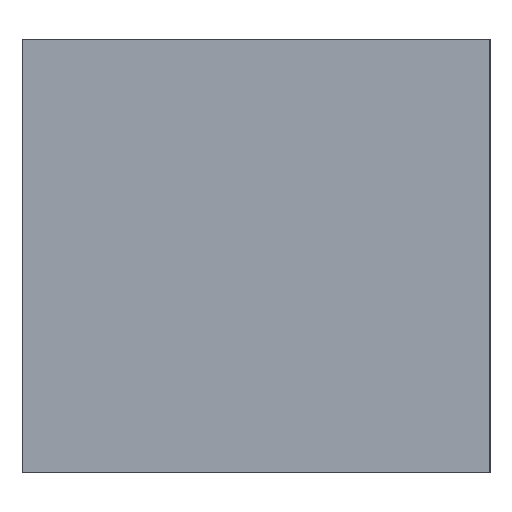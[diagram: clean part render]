
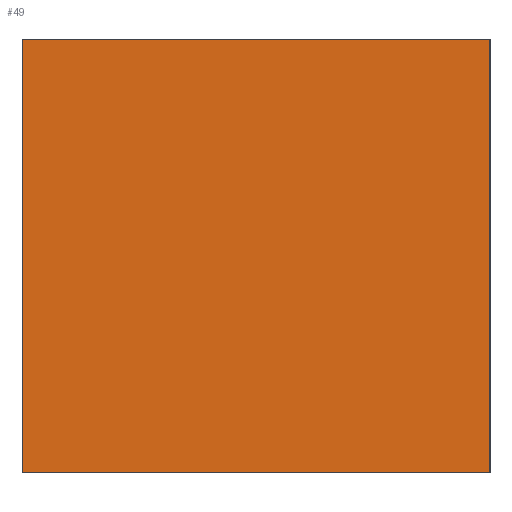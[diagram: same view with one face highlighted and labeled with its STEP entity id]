
A CAD part, left-side view. The second image highlights one B-rep face of the part: STEP entity #49.
In plain terms, the highlighted planar face has unit normal (-1, 0, 0).
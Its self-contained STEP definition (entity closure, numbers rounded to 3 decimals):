
#49 = ADVANCED_FACE( '', ( #108 ), #109, .F. );
#108 = FACE_OUTER_BOUND( '', #176, .T. );
#109 = PLANE( '', #177 );
#176 = EDGE_LOOP( '', ( #250, #251, #252, #253 ) );
#177 = AXIS2_PLACEMENT_3D( '', #254, #255, #256 );
#250 = ORIENTED_EDGE( '', *, *, #403, .F. );
#251 = ORIENTED_EDGE( '', *, *, #396, .F. );
#252 = ORIENTED_EDGE( '', *, *, #404, .F. );
#253 = ORIENTED_EDGE( '', *, *, #390, .F. );
#254 = CARTESIAN_POINT( '', ( -17.5, -26., -10.093 ) );
#255 = DIRECTION( '', ( 1., 0., 0. ) );
#256 = DIRECTION( '', ( 0., 0., -1. ) );
#390 = EDGE_CURVE( '', #452, #453, #454, .T. );
#396 = EDGE_CURVE( '', #463, #464, #465, .T. );
#403 = EDGE_CURVE( '', #464, #452, #475, .T. );
#404 = EDGE_CURVE( '', #453, #463, #476, .T. );
#452 = VERTEX_POINT( '', #544 );
#453 = VERTEX_POINT( '', #545 );
#454 = LINE( '', #546, #547 );
#463 = VERTEX_POINT( '', #559 );
#464 = VERTEX_POINT( '', #560 );
#465 = LINE( '', #561, #562 );
#475 = LINE( '', #575, #576 );
#476 = LINE( '', #577, #578 );
#544 = CARTESIAN_POINT( '', ( -17.5, -27., 12.5 ) );
#545 = CARTESIAN_POINT( '', ( -17.5, -27., -12.5 ) );
#546 = CARTESIAN_POINT( '', ( -17.5, -27., 12.5 ) );
#547 = VECTOR( '', #666, 1000. );
#559 = CARTESIAN_POINT( '', ( -17.5, 0., -12.5 ) );
#560 = CARTESIAN_POINT( '', ( -17.5, 0., 12.5 ) );
#561 = CARTESIAN_POINT( '', ( -17.5, 0., -12.5 ) );
#562 = VECTOR( '', #673, 1000. );
#575 = CARTESIAN_POINT( '', ( -17.5, -23., 12.5 ) );
#576 = VECTOR( '', #680, 1000. );
#577 = CARTESIAN_POINT( '', ( -17.5, -27., -12.5 ) );
#578 = VECTOR( '', #681, 1000. );
#666 = DIRECTION( '', ( 0., 0., -1. ) );
#673 = DIRECTION( '', ( 0., 0., 1. ) );
#680 = DIRECTION( '', ( 0., -1., 0. ) );
#681 = DIRECTION( '', ( 0., 1., 0. ) );
